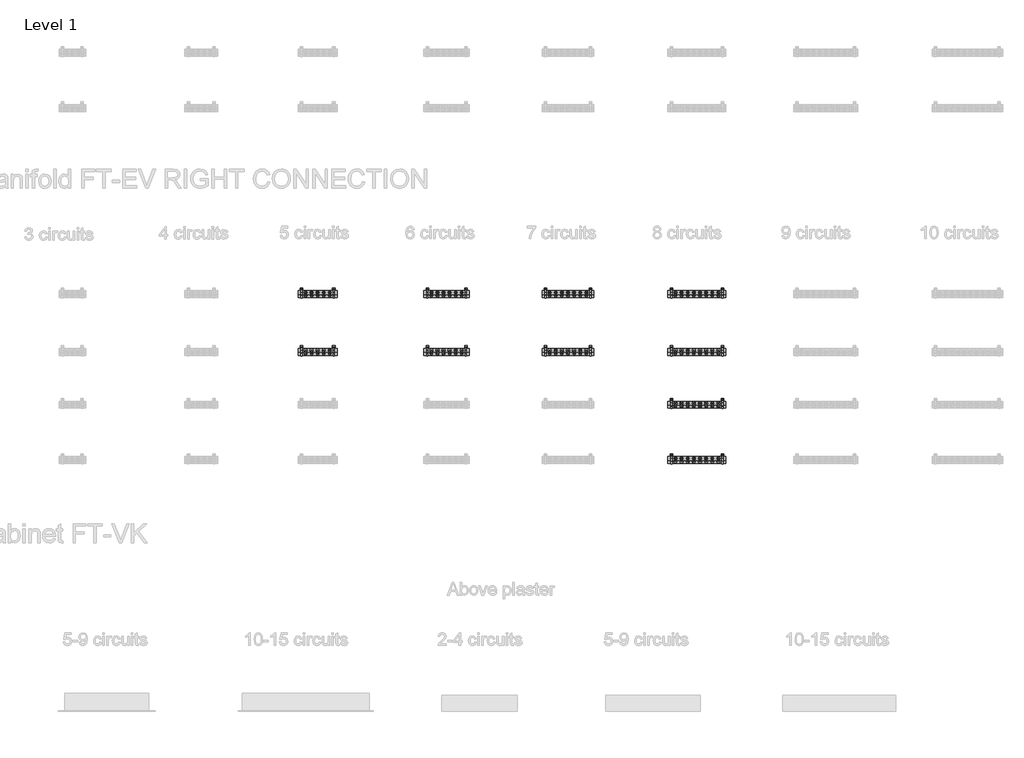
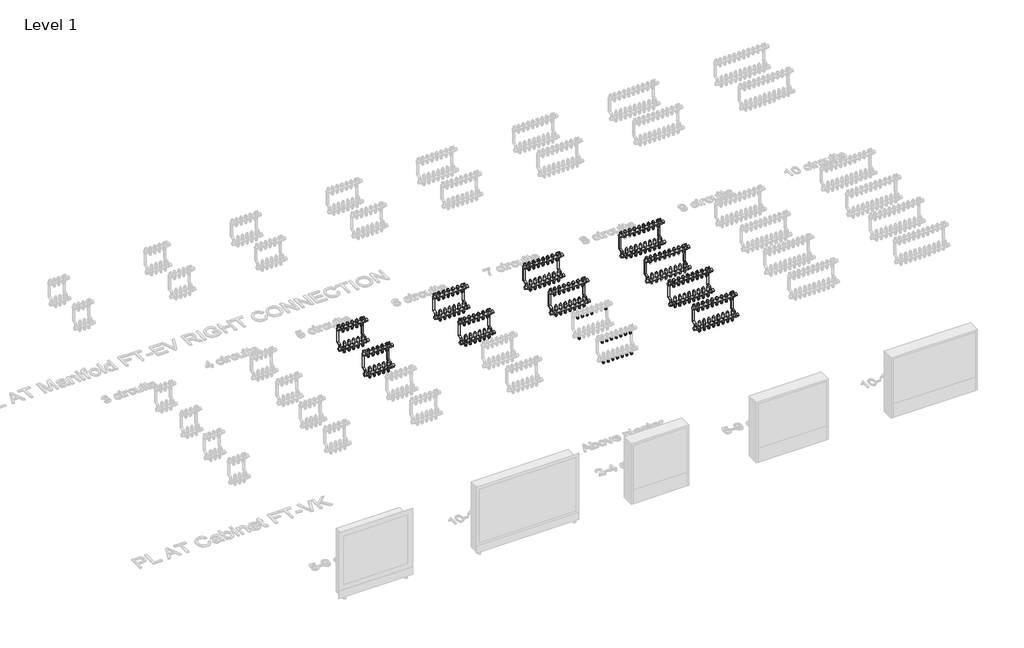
# One storey, part 2 of 23: 136 pipe fittings, 10 valves.
"""IFC4 building model written with IfcOpenShell, lengths in millimetres."""

from ifc_helpers import new_model, si_unit, origin, place, context, project, spatial, transform, mapped, element, save
from components import pipe_fitting_03c6499f, valve_0794a25a, valve_64aa8ca1, valve_0c7f9d95, valve_02e7046f, valve_ee085975, valve_4b47ae93, valve_fde5d0af, valve_4e4a3ad7, valve_daf88f27

model = new_model("IFC4")

# Units and contexts
model_context = context("Model", 3, world=origin())
ifc_project = project(units=[si_unit("LENGTHUNIT", "METRE", prefix="MILLI")], contexts=[model_context])

# Site, building, storey
site = spatial("IfcSite", under=ifc_project)
building = spatial("IfcBuilding", under=site)
storey = spatial("IfcBuildingStorey", under=building, Name="Level 1", Elevation=0.0)

# Pipe fittings
placement = place(None, origin())
pipe_fitting_shape = pipe_fitting_03c6499f(model_context)
element("IfcPipeFitting", 1, ObjectType="Euroconus screwing for multilayer pipes - Manifold FT : Euroconus screwing for multilayer pipes - Manifold FT", at=placement, inside=storey, context=model_context, shape_type="MappedRepresentation", body=[
    mapped(pipe_fitting_shape, transform((4436.9796862, -1164.6959314, 62.88733), x_axis=(0.0, 0.0, -1.0), y_axis=(0.0, 1.0000000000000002, 0.0), z_axis=(1.0000000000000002, 0.0, 0.0))),
])
element("IfcPipeFitting", 2, ObjectType="Euroconus screwing for multilayer pipes - Manifold FT : Euroconus screwing for multilayer pipes - Manifold FT", at=placement, inside=storey, context=model_context, shape_type="MappedRepresentation", body=[
    mapped(pipe_fitting_shape, transform((4388.9796862, -1164.6959314, 62.88733), x_axis=(0.0, 0.0, -1.0), y_axis=(0.0, 1.0000000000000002, 0.0), z_axis=(1.0000000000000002, 0.0, 0.0))),
])
element("IfcPipeFitting", 3, ObjectType="Euroconus screwing for multilayer pipes - Manifold FT : Euroconus screwing for multilayer pipes - Manifold FT", at=placement, inside=storey, context=model_context, shape_type="MappedRepresentation", body=[
    mapped(pipe_fitting_shape, transform((4340.9796862, -1164.6959314, 62.88733), x_axis=(0.0, 0.0, -1.0), y_axis=(0.0, 1.0000000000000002, 0.0), z_axis=(1.0000000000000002, 0.0, 0.0))),
])
element("IfcPipeFitting", 4, ObjectType="Euroconus screwing for multilayer pipes - Manifold FT : Euroconus screwing for multilayer pipes - Manifold FT", at=placement, inside=storey, context=model_context, shape_type="MappedRepresentation", body=[
    mapped(pipe_fitting_shape, transform((4484.9796862, -1164.6959314, 62.88733), x_axis=(0.0, 0.0, -1.0), y_axis=(0.0, 1.0000000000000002, 0.0), z_axis=(1.0000000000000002, 0.0, 0.0))),
])
element("IfcPipeFitting", 5, ObjectType="Euroconus screwing for multilayer pipes - Manifold FT : Euroconus screwing for multilayer pipes - Manifold FT", at=placement, inside=storey, context=model_context, shape_type="MappedRepresentation", body=[
    mapped(pipe_fitting_shape, transform((4436.9796862, -1139.6959314, 272.88733), x_axis=(0.0, 0.0, -1.0), y_axis=(0.0, 1.0000000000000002, 0.0), z_axis=(1.0000000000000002, 0.0, 0.0))),
])
element("IfcPipeFitting", 6, ObjectType="Euroconus screwing for multilayer pipes - Manifold FT : Euroconus screwing for multilayer pipes - Manifold FT", at=placement, inside=storey, context=model_context, shape_type="MappedRepresentation", body=[
    mapped(pipe_fitting_shape, transform((4388.9796862, -1139.6959314, 272.88733), x_axis=(0.0, 0.0, -1.0), y_axis=(0.0, 1.0000000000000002, 0.0), z_axis=(1.0000000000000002, 0.0, 0.0))),
])
element("IfcPipeFitting", 7, ObjectType="Euroconus screwing for multilayer pipes - Manifold FT : Euroconus screwing for multilayer pipes - Manifold FT", at=placement, inside=storey, context=model_context, shape_type="MappedRepresentation", body=[
    mapped(pipe_fitting_shape, transform((4340.9796862, -1139.6959314, 272.88733), x_axis=(0.0, 0.0, -1.0), y_axis=(0.0, 1.0000000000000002, 0.0), z_axis=(1.0000000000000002, 0.0, 0.0))),
])
element("IfcPipeFitting", 8, ObjectType="Euroconus screwing for multilayer pipes - Manifold FT : Euroconus screwing for multilayer pipes - Manifold FT", at=placement, inside=storey, context=model_context, shape_type="MappedRepresentation", body=[
    mapped(pipe_fitting_shape, transform((4484.9796862, -1139.6959314, 272.88733), x_axis=(0.0, 0.0, -1.0), y_axis=(0.0, 1.0000000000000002, 0.0), z_axis=(1.0000000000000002, 0.0, 0.0))),
])
element("IfcPipeFitting", 9, ObjectType="Euroconus screwing for multilayer pipes - Manifold FT : Euroconus screwing for multilayer pipes - Manifold FT", at=placement, inside=storey, context=model_context, shape_type="MappedRepresentation", body=[
    mapped(pipe_fitting_shape, transform((4292.9796862, -1164.6959314, 62.88733), x_axis=(0.0, 0.0, -1.0), y_axis=(0.0, 1.0000000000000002, 0.0), z_axis=(1.0000000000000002, 0.0, 0.0))),
])
element("IfcPipeFitting", 10, ObjectType="Euroconus screwing for multilayer pipes - Manifold FT : Euroconus screwing for multilayer pipes - Manifold FT", at=placement, inside=storey, context=model_context, shape_type="MappedRepresentation", body=[
    mapped(pipe_fitting_shape, transform((4292.9796862, -1139.6959314, 272.88733), x_axis=(0.0, 0.0, -1.0), y_axis=(0.0, 1.0000000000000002, 0.0), z_axis=(1.0000000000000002, 0.0, 0.0))),
])
element("IfcPipeFitting", 11, ObjectType="Euroconus screwing for multilayer pipes - Manifold FT : Euroconus screwing for multilayer pipes - Manifold FT", at=placement, inside=storey, context=model_context, shape_type="MappedRepresentation", body=[
    mapped(pipe_fitting_shape, transform((5486.5796862, -1164.6959314, 62.88733), x_axis=(0.0, 0.0, -1.0), y_axis=(0.0, 1.0000000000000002, 0.0), z_axis=(1.0000000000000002, 0.0, 0.0))),
])
element("IfcPipeFitting", 12, ObjectType="Euroconus screwing for multilayer pipes - Manifold FT : Euroconus screwing for multilayer pipes - Manifold FT", at=placement, inside=storey, context=model_context, shape_type="MappedRepresentation", body=[
    mapped(pipe_fitting_shape, transform((5438.1796862, -1164.6959314, 62.88733), x_axis=(0.0, 0.0, -1.0), y_axis=(0.0, 1.0000000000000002, 0.0), z_axis=(1.0000000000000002, 0.0, 0.0))),
])
element("IfcPipeFitting", 13, ObjectType="Euroconus screwing for multilayer pipes - Manifold FT : Euroconus screwing for multilayer pipes - Manifold FT", at=placement, inside=storey, context=model_context, shape_type="MappedRepresentation", body=[
    mapped(pipe_fitting_shape, transform((5389.7796862, -1164.6959314, 62.88733), x_axis=(0.0, 0.0, -1.0), y_axis=(0.0, 1.0000000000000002, 0.0), z_axis=(1.0000000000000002, 0.0, 0.0))),
])
element("IfcPipeFitting", 14, ObjectType="Euroconus screwing for multilayer pipes - Manifold FT : Euroconus screwing for multilayer pipes - Manifold FT", at=placement, inside=storey, context=model_context, shape_type="MappedRepresentation", body=[
    mapped(pipe_fitting_shape, transform((5341.3796862, -1164.6959314, 62.88733), x_axis=(0.0, 0.0, -1.0), y_axis=(0.0, 1.0000000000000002, 0.0), z_axis=(1.0000000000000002, 0.0, 0.0))),
])
element("IfcPipeFitting", 15, ObjectType="Euroconus screwing for multilayer pipes - Manifold FT : Euroconus screwing for multilayer pipes - Manifold FT", at=placement, inside=storey, context=model_context, shape_type="MappedRepresentation", body=[
    mapped(pipe_fitting_shape, transform((5534.9796862, -1164.6959314, 62.88733), x_axis=(0.0, 0.0, -1.0), y_axis=(0.0, 1.0000000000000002, 0.0), z_axis=(1.0000000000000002, 0.0, 0.0))),
])
element("IfcPipeFitting", 16, ObjectType="Euroconus screwing for multilayer pipes - Manifold FT : Euroconus screwing for multilayer pipes - Manifold FT", at=placement, inside=storey, context=model_context, shape_type="MappedRepresentation", body=[
    mapped(pipe_fitting_shape, transform((5486.5796862, -1139.6959314, 272.88733), x_axis=(0.0, 0.0, -1.0), y_axis=(0.0, 1.0000000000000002, 0.0), z_axis=(1.0000000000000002, 0.0, 0.0))),
])
element("IfcPipeFitting", 17, ObjectType="Euroconus screwing for multilayer pipes - Manifold FT : Euroconus screwing for multilayer pipes - Manifold FT", at=placement, inside=storey, context=model_context, shape_type="MappedRepresentation", body=[
    mapped(pipe_fitting_shape, transform((5438.1796862, -1139.6959314, 272.88733), x_axis=(0.0, 0.0, -1.0), y_axis=(0.0, 1.0000000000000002, 0.0), z_axis=(1.0000000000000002, 0.0, 0.0))),
])
element("IfcPipeFitting", 18, ObjectType="Euroconus screwing for multilayer pipes - Manifold FT : Euroconus screwing for multilayer pipes - Manifold FT", at=placement, inside=storey, context=model_context, shape_type="MappedRepresentation", body=[
    mapped(pipe_fitting_shape, transform((5389.7796862, -1139.6959314, 272.88733), x_axis=(0.0, 0.0, -1.0), y_axis=(0.0, 1.0000000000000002, 0.0), z_axis=(1.0000000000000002, 0.0, 0.0))),
])
element("IfcPipeFitting", 19, ObjectType="Euroconus screwing for multilayer pipes - Manifold FT : Euroconus screwing for multilayer pipes - Manifold FT", at=placement, inside=storey, context=model_context, shape_type="MappedRepresentation", body=[
    mapped(pipe_fitting_shape, transform((5341.3796862, -1139.6959314, 272.88733), x_axis=(0.0, 0.0, -1.0), y_axis=(0.0, 1.0000000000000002, 0.0), z_axis=(1.0000000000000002, 0.0, 0.0))),
])
element("IfcPipeFitting", 20, ObjectType="Euroconus screwing for multilayer pipes - Manifold FT : Euroconus screwing for multilayer pipes - Manifold FT", at=placement, inside=storey, context=model_context, shape_type="MappedRepresentation", body=[
    mapped(pipe_fitting_shape, transform((5534.9796862, -1139.6959314, 272.88733), x_axis=(0.0, 0.0, -1.0), y_axis=(0.0, 1.0000000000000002, 0.0), z_axis=(1.0000000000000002, 0.0, 0.0))),
])
element("IfcPipeFitting", 21, ObjectType="Euroconus screwing for multilayer pipes - Manifold FT : Euroconus screwing for multilayer pipes - Manifold FT", at=placement, inside=storey, context=model_context, shape_type="MappedRepresentation", body=[
    mapped(pipe_fitting_shape, transform((5292.9796862, -1164.6959314, 62.88733), x_axis=(0.0, 0.0, -1.0), y_axis=(0.0, 1.0000000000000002, 0.0), z_axis=(1.0000000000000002, 0.0, 0.0))),
])
element("IfcPipeFitting", 22, ObjectType="Euroconus screwing for multilayer pipes - Manifold FT : Euroconus screwing for multilayer pipes - Manifold FT", at=placement, inside=storey, context=model_context, shape_type="MappedRepresentation", body=[
    mapped(pipe_fitting_shape, transform((5292.9796862, -1139.6959314, 272.88733), x_axis=(0.0, 0.0, -1.0), y_axis=(0.0, 1.0000000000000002, 0.0), z_axis=(1.0000000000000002, 0.0, 0.0))),
])
element("IfcPipeFitting", 23, ObjectType="Euroconus screwing for multilayer pipes - Manifold FT : Euroconus screwing for multilayer pipes - Manifold FT", at=placement, inside=storey, context=model_context, shape_type="MappedRepresentation", body=[
    mapped(pipe_fitting_shape, transform((6476.3130195, -1164.6959314, 62.88733), x_axis=(0.0, 0.0, -1.0), y_axis=(0.0, 1.0000000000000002, 0.0), z_axis=(1.0000000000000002, 0.0, 0.0))),
])
element("IfcPipeFitting", 24, ObjectType="Euroconus screwing for multilayer pipes - Manifold FT : Euroconus screwing for multilayer pipes - Manifold FT", at=placement, inside=storey, context=model_context, shape_type="MappedRepresentation", body=[
    mapped(pipe_fitting_shape, transform((6427.6463528, -1164.6959314, 62.88733), x_axis=(0.0, 0.0, -1.0), y_axis=(0.0, 1.0000000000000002, 0.0), z_axis=(1.0000000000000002, 0.0, 0.0))),
])
element("IfcPipeFitting", 25, ObjectType="Euroconus screwing for multilayer pipes - Manifold FT : Euroconus screwing for multilayer pipes - Manifold FT", at=placement, inside=storey, context=model_context, shape_type="MappedRepresentation", body=[
    mapped(pipe_fitting_shape, transform((6378.9796862, -1164.6959314, 62.88733), x_axis=(0.0, 0.0, -1.0), y_axis=(0.0, 1.0000000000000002, 0.0), z_axis=(1.0000000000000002, 0.0, 0.0))),
])
element("IfcPipeFitting", 26, ObjectType="Euroconus screwing for multilayer pipes - Manifold FT : Euroconus screwing for multilayer pipes - Manifold FT", at=placement, inside=storey, context=model_context, shape_type="MappedRepresentation", body=[
    mapped(pipe_fitting_shape, transform((6330.3130195, -1164.6959314, 62.88733), x_axis=(0.0, 0.0, -1.0), y_axis=(0.0, 1.0000000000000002, 0.0), z_axis=(1.0000000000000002, 0.0, 0.0))),
])
element("IfcPipeFitting", 27, ObjectType="Euroconus screwing for multilayer pipes - Manifold FT : Euroconus screwing for multilayer pipes - Manifold FT", at=placement, inside=storey, context=model_context, shape_type="MappedRepresentation", body=[
    mapped(pipe_fitting_shape, transform((6281.6463528, -1164.6959314, 62.88733), x_axis=(0.0, 0.0, -1.0), y_axis=(0.0, 1.0000000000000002, 0.0), z_axis=(1.0000000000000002, 0.0, 0.0))),
])
element("IfcPipeFitting", 28, ObjectType="Euroconus screwing for multilayer pipes - Manifold FT : Euroconus screwing for multilayer pipes - Manifold FT", at=placement, inside=storey, context=model_context, shape_type="MappedRepresentation", body=[
    mapped(pipe_fitting_shape, transform((6524.9796862, -1164.6959314, 62.88733), x_axis=(0.0, 0.0, -1.0), y_axis=(0.0, 1.0000000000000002, 0.0), z_axis=(1.0000000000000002, 0.0, 0.0))),
])
element("IfcPipeFitting", 29, ObjectType="Euroconus screwing for multilayer pipes - Manifold FT : Euroconus screwing for multilayer pipes - Manifold FT", at=placement, inside=storey, context=model_context, shape_type="MappedRepresentation", body=[
    mapped(pipe_fitting_shape, transform((6476.3130195, -1139.6959314, 272.88733), x_axis=(0.0, 0.0, -1.0), y_axis=(0.0, 1.0000000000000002, 0.0), z_axis=(1.0000000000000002, 0.0, 0.0))),
])
element("IfcPipeFitting", 30, ObjectType="Euroconus screwing for multilayer pipes - Manifold FT : Euroconus screwing for multilayer pipes - Manifold FT", at=placement, inside=storey, context=model_context, shape_type="MappedRepresentation", body=[
    mapped(pipe_fitting_shape, transform((6427.6463528, -1139.6959314, 272.88733), x_axis=(0.0, 0.0, -1.0), y_axis=(0.0, 1.0000000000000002, 0.0), z_axis=(1.0000000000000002, 0.0, 0.0))),
])
element("IfcPipeFitting", 31, ObjectType="Euroconus screwing for multilayer pipes - Manifold FT : Euroconus screwing for multilayer pipes - Manifold FT", at=placement, inside=storey, context=model_context, shape_type="MappedRepresentation", body=[
    mapped(pipe_fitting_shape, transform((6378.9796862, -1139.6959314, 272.88733), x_axis=(0.0, 0.0, -1.0), y_axis=(0.0, 1.0000000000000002, 0.0), z_axis=(1.0000000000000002, 0.0, 0.0))),
])
element("IfcPipeFitting", 32, ObjectType="Euroconus screwing for multilayer pipes - Manifold FT : Euroconus screwing for multilayer pipes - Manifold FT", at=placement, inside=storey, context=model_context, shape_type="MappedRepresentation", body=[
    mapped(pipe_fitting_shape, transform((6330.3130195, -1139.6959314, 272.88733), x_axis=(0.0, 0.0, -1.0), y_axis=(0.0, 1.0000000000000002, 0.0), z_axis=(1.0000000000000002, 0.0, 0.0))),
])
element("IfcPipeFitting", 33, ObjectType="Euroconus screwing for multilayer pipes - Manifold FT : Euroconus screwing for multilayer pipes - Manifold FT", at=placement, inside=storey, context=model_context, shape_type="MappedRepresentation", body=[
    mapped(pipe_fitting_shape, transform((6281.6463528, -1139.6959314, 272.88733), x_axis=(0.0, 0.0, -1.0), y_axis=(0.0, 1.0000000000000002, 0.0), z_axis=(1.0000000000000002, 0.0, 0.0))),
])
element("IfcPipeFitting", 34, ObjectType="Euroconus screwing for multilayer pipes - Manifold FT : Euroconus screwing for multilayer pipes - Manifold FT", at=placement, inside=storey, context=model_context, shape_type="MappedRepresentation", body=[
    mapped(pipe_fitting_shape, transform((6524.9796862, -1139.6959314, 272.88733), x_axis=(0.0, 0.0, -1.0), y_axis=(0.0, 1.0000000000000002, 0.0), z_axis=(1.0000000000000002, 0.0, 0.0))),
])
element("IfcPipeFitting", 35, ObjectType="Euroconus screwing for multilayer pipes - Manifold FT : Euroconus screwing for multilayer pipes - Manifold FT", at=placement, inside=storey, context=model_context, shape_type="MappedRepresentation", body=[
    mapped(pipe_fitting_shape, transform((6232.9796862, -1164.6959314, 62.88733), x_axis=(0.0, 0.0, -1.0), y_axis=(0.0, 1.0000000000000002, 0.0), z_axis=(1.0000000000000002, 0.0, 0.0))),
])
element("IfcPipeFitting", 36, ObjectType="Euroconus screwing for multilayer pipes - Manifold FT : Euroconus screwing for multilayer pipes - Manifold FT", at=placement, inside=storey, context=model_context, shape_type="MappedRepresentation", body=[
    mapped(pipe_fitting_shape, transform((6232.9796862, -1139.6959314, 272.88733), x_axis=(0.0, 0.0, -1.0), y_axis=(0.0, 1.0000000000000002, 0.0), z_axis=(1.0000000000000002, 0.0, 0.0))),
])
element("IfcPipeFitting", 37, ObjectType="Euroconus screwing for multilayer pipes - Manifold FT : Euroconus screwing for multilayer pipes - Manifold FT", at=placement, inside=storey, context=model_context, shape_type="MappedRepresentation", body=[
    mapped(pipe_fitting_shape, transform((7526.1225433, -1164.6959314, 62.88733), x_axis=(0.0, 0.0, -1.0), y_axis=(0.0, 1.0000000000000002, 0.0), z_axis=(1.0000000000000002, 0.0, 0.0))),
])
element("IfcPipeFitting", 38, ObjectType="Euroconus screwing for multilayer pipes - Manifold FT : Euroconus screwing for multilayer pipes - Manifold FT", at=placement, inside=storey, context=model_context, shape_type="MappedRepresentation", body=[
    mapped(pipe_fitting_shape, transform((7477.2654004, -1164.6959314, 62.88733), x_axis=(0.0, 0.0, -1.0), y_axis=(0.0, 1.0000000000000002, 0.0), z_axis=(1.0000000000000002, 0.0, 0.0))),
])
element("IfcPipeFitting", 39, ObjectType="Euroconus screwing for multilayer pipes - Manifold FT : Euroconus screwing for multilayer pipes - Manifold FT", at=placement, inside=storey, context=model_context, shape_type="MappedRepresentation", body=[
    mapped(pipe_fitting_shape, transform((7428.4082576, -1164.6959314, 62.88733), x_axis=(0.0, 0.0, -1.0), y_axis=(0.0, 1.0000000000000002, 0.0), z_axis=(1.0000000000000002, 0.0, 0.0))),
])
element("IfcPipeFitting", 40, ObjectType="Euroconus screwing for multilayer pipes - Manifold FT : Euroconus screwing for multilayer pipes - Manifold FT", at=placement, inside=storey, context=model_context, shape_type="MappedRepresentation", body=[
    mapped(pipe_fitting_shape, transform((7379.5511147, -1164.6959314, 62.88733), x_axis=(0.0, 0.0, -1.0), y_axis=(0.0, 1.0000000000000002, 0.0), z_axis=(1.0000000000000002, 0.0, 0.0))),
])
element("IfcPipeFitting", 41, ObjectType="Euroconus screwing for multilayer pipes - Manifold FT : Euroconus screwing for multilayer pipes - Manifold FT", at=placement, inside=storey, context=model_context, shape_type="MappedRepresentation", body=[
    mapped(pipe_fitting_shape, transform((7330.6939719, -1164.6959314, 62.88733), x_axis=(0.0, 0.0, -1.0), y_axis=(0.0, 1.0000000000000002, 0.0), z_axis=(1.0000000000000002, 0.0, 0.0))),
])
element("IfcPipeFitting", 42, ObjectType="Euroconus screwing for multilayer pipes - Manifold FT : Euroconus screwing for multilayer pipes - Manifold FT", at=placement, inside=storey, context=model_context, shape_type="MappedRepresentation", body=[
    mapped(pipe_fitting_shape, transform((7281.836829, -1164.6959314, 62.88733), x_axis=(0.0, 0.0, -1.0), y_axis=(0.0, 1.0000000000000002, 0.0), z_axis=(1.0000000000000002, 0.0, 0.0))),
])
element("IfcPipeFitting", 43, ObjectType="Euroconus screwing for multilayer pipes - Manifold FT : Euroconus screwing for multilayer pipes - Manifold FT", at=placement, inside=storey, context=model_context, shape_type="MappedRepresentation", body=[
    mapped(pipe_fitting_shape, transform((7574.9796862, -1164.6959314, 62.88733), x_axis=(0.0, 0.0, -1.0), y_axis=(0.0, 1.0000000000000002, 0.0), z_axis=(1.0000000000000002, 0.0, 0.0))),
])
element("IfcPipeFitting", 44, ObjectType="Euroconus screwing for multilayer pipes - Manifold FT : Euroconus screwing for multilayer pipes - Manifold FT", at=placement, inside=storey, context=model_context, shape_type="MappedRepresentation", body=[
    mapped(pipe_fitting_shape, transform((7526.1225433, -1139.6959314, 272.88733), x_axis=(0.0, 0.0, -1.0), y_axis=(0.0, 1.0000000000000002, 0.0), z_axis=(1.0000000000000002, 0.0, 0.0))),
])
element("IfcPipeFitting", 45, ObjectType="Euroconus screwing for multilayer pipes - Manifold FT : Euroconus screwing for multilayer pipes - Manifold FT", at=placement, inside=storey, context=model_context, shape_type="MappedRepresentation", body=[
    mapped(pipe_fitting_shape, transform((7477.2654004, -1139.6959314, 272.88733), x_axis=(0.0, 0.0, -1.0), y_axis=(0.0, 1.0000000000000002, 0.0), z_axis=(1.0000000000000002, 0.0, 0.0))),
])
element("IfcPipeFitting", 46, ObjectType="Euroconus screwing for multilayer pipes - Manifold FT : Euroconus screwing for multilayer pipes - Manifold FT", at=placement, inside=storey, context=model_context, shape_type="MappedRepresentation", body=[
    mapped(pipe_fitting_shape, transform((7428.4082576, -1139.6959314, 272.88733), x_axis=(0.0, 0.0, -1.0), y_axis=(0.0, 1.0000000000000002, 0.0), z_axis=(1.0000000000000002, 0.0, 0.0))),
])
element("IfcPipeFitting", 47, ObjectType="Euroconus screwing for multilayer pipes - Manifold FT : Euroconus screwing for multilayer pipes - Manifold FT", at=placement, inside=storey, context=model_context, shape_type="MappedRepresentation", body=[
    mapped(pipe_fitting_shape, transform((7379.5511147, -1139.6959314, 272.88733), x_axis=(0.0, 0.0, -1.0), y_axis=(0.0, 1.0000000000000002, 0.0), z_axis=(1.0000000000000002, 0.0, 0.0))),
])
element("IfcPipeFitting", 48, ObjectType="Euroconus screwing for multilayer pipes - Manifold FT : Euroconus screwing for multilayer pipes - Manifold FT", at=placement, inside=storey, context=model_context, shape_type="MappedRepresentation", body=[
    mapped(pipe_fitting_shape, transform((7330.6939719, -1139.6959314, 272.88733), x_axis=(0.0, 0.0, -1.0), y_axis=(0.0, 1.0000000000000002, 0.0), z_axis=(1.0000000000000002, 0.0, 0.0))),
])
element("IfcPipeFitting", 49, ObjectType="Euroconus screwing for multilayer pipes - Manifold FT : Euroconus screwing for multilayer pipes - Manifold FT", at=placement, inside=storey, context=model_context, shape_type="MappedRepresentation", body=[
    mapped(pipe_fitting_shape, transform((4436.9796862, -1624.6959314, 62.88733), x_axis=(0.0, 0.0, -1.0), y_axis=(0.0, 1.0000000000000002, 0.0), z_axis=(1.0000000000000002, 0.0, 0.0))),
])
element("IfcPipeFitting", 50, ObjectType="Euroconus screwing for multilayer pipes - Manifold FT : Euroconus screwing for multilayer pipes - Manifold FT", at=placement, inside=storey, context=model_context, shape_type="MappedRepresentation", body=[
    mapped(pipe_fitting_shape, transform((4388.9796862, -1624.6959314, 62.88733), x_axis=(0.0, 0.0, -1.0), y_axis=(0.0, 1.0000000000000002, 0.0), z_axis=(1.0000000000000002, 0.0, 0.0))),
])
element("IfcPipeFitting", 51, ObjectType="Euroconus screwing for multilayer pipes - Manifold FT : Euroconus screwing for multilayer pipes - Manifold FT", at=placement, inside=storey, context=model_context, shape_type="MappedRepresentation", body=[
    mapped(pipe_fitting_shape, transform((4340.9796862, -1624.6959314, 62.88733), x_axis=(0.0, 0.0, -1.0), y_axis=(0.0, 1.0000000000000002, 0.0), z_axis=(1.0000000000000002, 0.0, 0.0))),
])
element("IfcPipeFitting", 52, ObjectType="Euroconus screwing for multilayer pipes - Manifold FT : Euroconus screwing for multilayer pipes - Manifold FT", at=placement, inside=storey, context=model_context, shape_type="MappedRepresentation", body=[
    mapped(pipe_fitting_shape, transform((4484.9796862, -1624.6959314, 62.88733), x_axis=(0.0, 0.0, -1.0), y_axis=(0.0, 1.0000000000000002, 0.0), z_axis=(1.0000000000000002, 0.0, 0.0))),
])
element("IfcPipeFitting", 53, ObjectType="Euroconus screwing for multilayer pipes - Manifold FT : Euroconus screwing for multilayer pipes - Manifold FT", at=placement, inside=storey, context=model_context, shape_type="MappedRepresentation", body=[
    mapped(pipe_fitting_shape, transform((4436.9796862, -1599.6959314, 272.88733), x_axis=(0.0, 0.0, -1.0), y_axis=(0.0, 1.0000000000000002, 0.0), z_axis=(1.0000000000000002, 0.0, 0.0))),
])
element("IfcPipeFitting", 54, ObjectType="Euroconus screwing for multilayer pipes - Manifold FT : Euroconus screwing for multilayer pipes - Manifold FT", at=placement, inside=storey, context=model_context, shape_type="MappedRepresentation", body=[
    mapped(pipe_fitting_shape, transform((4388.9796862, -1599.6959314, 272.88733), x_axis=(0.0, 0.0, -1.0), y_axis=(0.0, 1.0000000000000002, 0.0), z_axis=(1.0000000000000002, 0.0, 0.0))),
])
element("IfcPipeFitting", 55, ObjectType="Euroconus screwing for multilayer pipes - Manifold FT : Euroconus screwing for multilayer pipes - Manifold FT", at=placement, inside=storey, context=model_context, shape_type="MappedRepresentation", body=[
    mapped(pipe_fitting_shape, transform((4340.9796862, -1599.6959314, 272.88733), x_axis=(0.0, 0.0, -1.0), y_axis=(0.0, 1.0000000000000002, 0.0), z_axis=(1.0000000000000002, 0.0, 0.0))),
])
element("IfcPipeFitting", 56, ObjectType="Euroconus screwing for multilayer pipes - Manifold FT : Euroconus screwing for multilayer pipes - Manifold FT", at=placement, inside=storey, context=model_context, shape_type="MappedRepresentation", body=[
    mapped(pipe_fitting_shape, transform((4484.9796862, -1599.6959314, 272.88733), x_axis=(0.0, 0.0, -1.0), y_axis=(0.0, 1.0000000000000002, 0.0), z_axis=(1.0000000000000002, 0.0, 0.0))),
])
element("IfcPipeFitting", 57, ObjectType="Euroconus screwing for multilayer pipes - Manifold FT : Euroconus screwing for multilayer pipes - Manifold FT", at=placement, inside=storey, context=model_context, shape_type="MappedRepresentation", body=[
    mapped(pipe_fitting_shape, transform((4292.9796862, -1624.6959314, 62.88733), x_axis=(0.0, 0.0, -1.0), y_axis=(0.0, 1.0000000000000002, 0.0), z_axis=(1.0000000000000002, 0.0, 0.0))),
])
element("IfcPipeFitting", 58, ObjectType="Euroconus screwing for multilayer pipes - Manifold FT : Euroconus screwing for multilayer pipes - Manifold FT", at=placement, inside=storey, context=model_context, shape_type="MappedRepresentation", body=[
    mapped(pipe_fitting_shape, transform((4292.9796862, -1599.6959314, 272.88733), x_axis=(0.0, 0.0, -1.0), y_axis=(0.0, 1.0000000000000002, 0.0), z_axis=(1.0000000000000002, 0.0, 0.0))),
])
element("IfcPipeFitting", 59, ObjectType="Euroconus screwing for multilayer pipes - Manifold FT : Euroconus screwing for multilayer pipes - Manifold FT", at=placement, inside=storey, context=model_context, shape_type="MappedRepresentation", body=[
    mapped(pipe_fitting_shape, transform((5486.5796862, -1624.6959314, 62.88733), x_axis=(0.0, 0.0, -1.0), y_axis=(0.0, 1.0000000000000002, 0.0), z_axis=(1.0000000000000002, 0.0, 0.0))),
])
element("IfcPipeFitting", 60, ObjectType="Euroconus screwing for multilayer pipes - Manifold FT : Euroconus screwing for multilayer pipes - Manifold FT", at=placement, inside=storey, context=model_context, shape_type="MappedRepresentation", body=[
    mapped(pipe_fitting_shape, transform((5438.1796862, -1624.6959314, 62.88733), x_axis=(0.0, 0.0, -1.0), y_axis=(0.0, 1.0000000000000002, 0.0), z_axis=(1.0000000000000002, 0.0, 0.0))),
])
element("IfcPipeFitting", 61, ObjectType="Euroconus screwing for multilayer pipes - Manifold FT : Euroconus screwing for multilayer pipes - Manifold FT", at=placement, inside=storey, context=model_context, shape_type="MappedRepresentation", body=[
    mapped(pipe_fitting_shape, transform((5389.7796862, -1624.6959314, 62.88733), x_axis=(0.0, 0.0, -1.0), y_axis=(0.0, 1.0000000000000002, 0.0), z_axis=(1.0000000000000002, 0.0, 0.0))),
])
element("IfcPipeFitting", 62, ObjectType="Euroconus screwing for multilayer pipes - Manifold FT : Euroconus screwing for multilayer pipes - Manifold FT", at=placement, inside=storey, context=model_context, shape_type="MappedRepresentation", body=[
    mapped(pipe_fitting_shape, transform((5341.3796862, -1624.6959314, 62.88733), x_axis=(0.0, 0.0, -1.0), y_axis=(0.0, 1.0000000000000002, 0.0), z_axis=(1.0000000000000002, 0.0, 0.0))),
])
element("IfcPipeFitting", 63, ObjectType="Euroconus screwing for multilayer pipes - Manifold FT : Euroconus screwing for multilayer pipes - Manifold FT", at=placement, inside=storey, context=model_context, shape_type="MappedRepresentation", body=[
    mapped(pipe_fitting_shape, transform((5534.9796862, -1624.6959314, 62.88733), x_axis=(0.0, 0.0, -1.0), y_axis=(0.0, 1.0000000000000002, 0.0), z_axis=(1.0000000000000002, 0.0, 0.0))),
])
element("IfcPipeFitting", 64, ObjectType="Euroconus screwing for multilayer pipes - Manifold FT : Euroconus screwing for multilayer pipes - Manifold FT", at=placement, inside=storey, context=model_context, shape_type="MappedRepresentation", body=[
    mapped(pipe_fitting_shape, transform((5486.5796862, -1599.6959314, 272.88733), x_axis=(0.0, 0.0, -1.0), y_axis=(0.0, 1.0000000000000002, 0.0), z_axis=(1.0000000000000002, 0.0, 0.0))),
])
element("IfcPipeFitting", 65, ObjectType="Euroconus screwing for multilayer pipes - Manifold FT : Euroconus screwing for multilayer pipes - Manifold FT", at=placement, inside=storey, context=model_context, shape_type="MappedRepresentation", body=[
    mapped(pipe_fitting_shape, transform((5438.1796862, -1599.6959314, 272.88733), x_axis=(0.0, 0.0, -1.0), y_axis=(0.0, 1.0000000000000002, 0.0), z_axis=(1.0000000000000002, 0.0, 0.0))),
])
element("IfcPipeFitting", 66, ObjectType="Euroconus screwing for multilayer pipes - Manifold FT : Euroconus screwing for multilayer pipes - Manifold FT", at=placement, inside=storey, context=model_context, shape_type="MappedRepresentation", body=[
    mapped(pipe_fitting_shape, transform((5389.7796862, -1599.6959314, 272.88733), x_axis=(0.0, 0.0, -1.0), y_axis=(0.0, 1.0000000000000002, 0.0), z_axis=(1.0000000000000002, 0.0, 0.0))),
])
element("IfcPipeFitting", 67, ObjectType="Euroconus screwing for multilayer pipes - Manifold FT : Euroconus screwing for multilayer pipes - Manifold FT", at=placement, inside=storey, context=model_context, shape_type="MappedRepresentation", body=[
    mapped(pipe_fitting_shape, transform((5341.3796862, -1599.6959314, 272.88733), x_axis=(0.0, 0.0, -1.0), y_axis=(0.0, 1.0000000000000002, 0.0), z_axis=(1.0000000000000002, 0.0, 0.0))),
])
element("IfcPipeFitting", 68, ObjectType="Euroconus screwing for multilayer pipes - Manifold FT : Euroconus screwing for multilayer pipes - Manifold FT", at=placement, inside=storey, context=model_context, shape_type="MappedRepresentation", body=[
    mapped(pipe_fitting_shape, transform((5534.9796862, -1599.6959314, 272.88733), x_axis=(0.0, 0.0, -1.0), y_axis=(0.0, 1.0000000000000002, 0.0), z_axis=(1.0000000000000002, 0.0, 0.0))),
])
element("IfcPipeFitting", 69, ObjectType="Euroconus screwing for multilayer pipes - Manifold FT : Euroconus screwing for multilayer pipes - Manifold FT", at=placement, inside=storey, context=model_context, shape_type="MappedRepresentation", body=[
    mapped(pipe_fitting_shape, transform((5292.9796862, -1624.6959314, 62.88733), x_axis=(0.0, 0.0, -1.0), y_axis=(0.0, 1.0000000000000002, 0.0), z_axis=(1.0000000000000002, 0.0, 0.0))),
])
element("IfcPipeFitting", 70, ObjectType="Euroconus screwing for multilayer pipes - Manifold FT : Euroconus screwing for multilayer pipes - Manifold FT", at=placement, inside=storey, context=model_context, shape_type="MappedRepresentation", body=[
    mapped(pipe_fitting_shape, transform((5292.9796862, -1599.6959314, 272.88733), x_axis=(0.0, 0.0, -1.0), y_axis=(0.0, 1.0000000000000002, 0.0), z_axis=(1.0000000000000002, 0.0, 0.0))),
])
element("IfcPipeFitting", 71, ObjectType="Euroconus screwing for multilayer pipes - Manifold FT : Euroconus screwing for multilayer pipes - Manifold FT", at=placement, inside=storey, context=model_context, shape_type="MappedRepresentation", body=[
    mapped(pipe_fitting_shape, transform((6476.3130195, -1624.6959314, 62.88733), x_axis=(0.0, 0.0, -1.0), y_axis=(0.0, 1.0000000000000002, 0.0), z_axis=(1.0000000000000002, 0.0, 0.0))),
])
element("IfcPipeFitting", 72, ObjectType="Euroconus screwing for multilayer pipes - Manifold FT : Euroconus screwing for multilayer pipes - Manifold FT", at=placement, inside=storey, context=model_context, shape_type="MappedRepresentation", body=[
    mapped(pipe_fitting_shape, transform((6427.6463528, -1624.6959314, 62.88733), x_axis=(0.0, 0.0, -1.0), y_axis=(0.0, 1.0000000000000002, 0.0), z_axis=(1.0000000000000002, 0.0, 0.0))),
])
element("IfcPipeFitting", 73, ObjectType="Euroconus screwing for multilayer pipes - Manifold FT : Euroconus screwing for multilayer pipes - Manifold FT", at=placement, inside=storey, context=model_context, shape_type="MappedRepresentation", body=[
    mapped(pipe_fitting_shape, transform((6378.9796862, -1624.6959314, 62.88733), x_axis=(0.0, 0.0, -1.0), y_axis=(0.0, 1.0000000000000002, 0.0), z_axis=(1.0000000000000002, 0.0, 0.0))),
])
element("IfcPipeFitting", 74, ObjectType="Euroconus screwing for multilayer pipes - Manifold FT : Euroconus screwing for multilayer pipes - Manifold FT", at=placement, inside=storey, context=model_context, shape_type="MappedRepresentation", body=[
    mapped(pipe_fitting_shape, transform((6330.3130195, -1624.6959314, 62.88733), x_axis=(0.0, 0.0, -1.0), y_axis=(0.0, 1.0000000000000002, 0.0), z_axis=(1.0000000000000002, 0.0, 0.0))),
])
element("IfcPipeFitting", 75, ObjectType="Euroconus screwing for multilayer pipes - Manifold FT : Euroconus screwing for multilayer pipes - Manifold FT", at=placement, inside=storey, context=model_context, shape_type="MappedRepresentation", body=[
    mapped(pipe_fitting_shape, transform((6281.6463528, -1624.6959314, 62.88733), x_axis=(0.0, 0.0, -1.0), y_axis=(0.0, 1.0000000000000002, 0.0), z_axis=(1.0000000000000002, 0.0, 0.0))),
])
element("IfcPipeFitting", 76, ObjectType="Euroconus screwing for multilayer pipes - Manifold FT : Euroconus screwing for multilayer pipes - Manifold FT", at=placement, inside=storey, context=model_context, shape_type="MappedRepresentation", body=[
    mapped(pipe_fitting_shape, transform((6524.9796862, -1624.6959314, 62.88733), x_axis=(0.0, 0.0, -1.0), y_axis=(0.0, 1.0000000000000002, 0.0), z_axis=(1.0000000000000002, 0.0, 0.0))),
])
element("IfcPipeFitting", 77, ObjectType="Euroconus screwing for multilayer pipes - Manifold FT : Euroconus screwing for multilayer pipes - Manifold FT", at=placement, inside=storey, context=model_context, shape_type="MappedRepresentation", body=[
    mapped(pipe_fitting_shape, transform((6476.3130195, -1599.6959314, 272.88733), x_axis=(0.0, 0.0, -1.0), y_axis=(0.0, 1.0000000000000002, 0.0), z_axis=(1.0000000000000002, 0.0, 0.0))),
])
element("IfcPipeFitting", 78, ObjectType="Euroconus screwing for multilayer pipes - Manifold FT : Euroconus screwing for multilayer pipes - Manifold FT", at=placement, inside=storey, context=model_context, shape_type="MappedRepresentation", body=[
    mapped(pipe_fitting_shape, transform((6427.6463528, -1599.6959314, 272.88733), x_axis=(0.0, 0.0, -1.0), y_axis=(0.0, 1.0000000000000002, 0.0), z_axis=(1.0000000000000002, 0.0, 0.0))),
])
element("IfcPipeFitting", 79, ObjectType="Euroconus screwing for multilayer pipes - Manifold FT : Euroconus screwing for multilayer pipes - Manifold FT", at=placement, inside=storey, context=model_context, shape_type="MappedRepresentation", body=[
    mapped(pipe_fitting_shape, transform((6378.9796862, -1599.6959314, 272.88733), x_axis=(0.0, 0.0, -1.0), y_axis=(0.0, 1.0000000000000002, 0.0), z_axis=(1.0000000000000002, 0.0, 0.0))),
])
element("IfcPipeFitting", 80, ObjectType="Euroconus screwing for multilayer pipes - Manifold FT : Euroconus screwing for multilayer pipes - Manifold FT", at=placement, inside=storey, context=model_context, shape_type="MappedRepresentation", body=[
    mapped(pipe_fitting_shape, transform((6330.3130195, -1599.6959314, 272.88733), x_axis=(0.0, 0.0, -1.0), y_axis=(0.0, 1.0000000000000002, 0.0), z_axis=(1.0000000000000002, 0.0, 0.0))),
])
element("IfcPipeFitting", 81, ObjectType="Euroconus screwing for multilayer pipes - Manifold FT : Euroconus screwing for multilayer pipes - Manifold FT", at=placement, inside=storey, context=model_context, shape_type="MappedRepresentation", body=[
    mapped(pipe_fitting_shape, transform((6281.6463528, -1599.6959314, 272.88733), x_axis=(0.0, 0.0, -1.0), y_axis=(0.0, 1.0000000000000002, 0.0), z_axis=(1.0000000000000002, 0.0, 0.0))),
])
element("IfcPipeFitting", 82, ObjectType="Euroconus screwing for multilayer pipes - Manifold FT : Euroconus screwing for multilayer pipes - Manifold FT", at=placement, inside=storey, context=model_context, shape_type="MappedRepresentation", body=[
    mapped(pipe_fitting_shape, transform((6524.9796862, -1599.6959314, 272.88733), x_axis=(0.0, 0.0, -1.0), y_axis=(0.0, 1.0000000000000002, 0.0), z_axis=(1.0000000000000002, 0.0, 0.0))),
])
element("IfcPipeFitting", 83, ObjectType="Euroconus screwing for multilayer pipes - Manifold FT : Euroconus screwing for multilayer pipes - Manifold FT", at=placement, inside=storey, context=model_context, shape_type="MappedRepresentation", body=[
    mapped(pipe_fitting_shape, transform((6232.9796862, -1624.6959314, 62.88733), x_axis=(0.0, 0.0, -1.0), y_axis=(0.0, 1.0000000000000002, 0.0), z_axis=(1.0000000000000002, 0.0, 0.0))),
])
element("IfcPipeFitting", 84, ObjectType="Euroconus screwing for multilayer pipes - Manifold FT : Euroconus screwing for multilayer pipes - Manifold FT", at=placement, inside=storey, context=model_context, shape_type="MappedRepresentation", body=[
    mapped(pipe_fitting_shape, transform((6232.9796862, -1599.6959314, 272.88733), x_axis=(0.0, 0.0, -1.0), y_axis=(0.0, 1.0000000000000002, 0.0), z_axis=(1.0000000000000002, 0.0, 0.0))),
])
element("IfcPipeFitting", 85, ObjectType="Euroconus screwing for multilayer pipes - Manifold FT : Euroconus screwing for multilayer pipes - Manifold FT", at=placement, inside=storey, context=model_context, shape_type="MappedRepresentation", body=[
    mapped(pipe_fitting_shape, transform((6378.9796862, -2019.6959314, 272.88733), x_axis=(0.0, 0.0, -1.0), y_axis=(0.0, 1.0000000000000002, 0.0), z_axis=(1.0000000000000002, 0.0, 0.0))),
])
element("IfcPipeFitting", 86, ObjectType="Euroconus screwing for multilayer pipes - Manifold FT : Euroconus screwing for multilayer pipes - Manifold FT", at=placement, inside=storey, context=model_context, shape_type="MappedRepresentation", body=[
    mapped(pipe_fitting_shape, transform((6330.3130195, -2019.6959314, 272.88733), x_axis=(0.0, 0.0, -1.0), y_axis=(0.0, 1.0000000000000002, 0.0), z_axis=(1.0000000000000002, 0.0, 0.0))),
])
element("IfcPipeFitting", 87, ObjectType="Euroconus screwing for multilayer pipes - Manifold FT : Euroconus screwing for multilayer pipes - Manifold FT", at=placement, inside=storey, context=model_context, shape_type="MappedRepresentation", body=[
    mapped(pipe_fitting_shape, transform((6281.6463528, -2019.6959314, 272.88733), x_axis=(0.0, 0.0, -1.0), y_axis=(0.0, 1.0000000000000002, 0.0), z_axis=(1.0000000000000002, 0.0, 0.0))),
])
element("IfcPipeFitting", 88, ObjectType="Euroconus screwing for multilayer pipes - Manifold FT : Euroconus screwing for multilayer pipes - Manifold FT", at=placement, inside=storey, context=model_context, shape_type="MappedRepresentation", body=[
    mapped(pipe_fitting_shape, transform((6524.9796862, -2019.6959314, 272.88733), x_axis=(0.0, 0.0, -1.0), y_axis=(0.0, 1.0000000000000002, 0.0), z_axis=(1.0000000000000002, 0.0, 0.0))),
])
element("IfcPipeFitting", 89, ObjectType="Euroconus screwing for multilayer pipes - Manifold FT : Euroconus screwing for multilayer pipes - Manifold FT", at=placement, inside=storey, context=model_context, shape_type="MappedRepresentation", body=[
    mapped(pipe_fitting_shape, transform((6232.9796862, -2044.6959314, 62.88733), x_axis=(0.0, 0.0, -1.0), y_axis=(0.0, 1.0000000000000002, 0.0), z_axis=(1.0000000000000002, 0.0, 0.0))),
])
element("IfcPipeFitting", 90, ObjectType="Euroconus screwing for multilayer pipes - Manifold FT : Euroconus screwing for multilayer pipes - Manifold FT", at=placement, inside=storey, context=model_context, shape_type="MappedRepresentation", body=[
    mapped(pipe_fitting_shape, transform((6232.9796862, -2019.6959314, 272.88733), x_axis=(0.0, 0.0, -1.0), y_axis=(0.0, 1.0000000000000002, 0.0), z_axis=(1.0000000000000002, 0.0, 0.0))),
])
element("IfcPipeFitting", 91, ObjectType="Euroconus screwing for multilayer pipes - Manifold FT : Euroconus screwing for multilayer pipes - Manifold FT", at=placement, inside=storey, context=model_context, shape_type="MappedRepresentation", body=[
    mapped(pipe_fitting_shape, transform((7526.1225433, -2044.6959314, 62.88733), x_axis=(0.0, 0.0, -1.0), y_axis=(0.0, 1.0000000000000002, 0.0), z_axis=(1.0000000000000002, 0.0, 0.0))),
])
element("IfcPipeFitting", 92, ObjectType="Euroconus screwing for multilayer pipes - Manifold FT : Euroconus screwing for multilayer pipes - Manifold FT", at=placement, inside=storey, context=model_context, shape_type="MappedRepresentation", body=[
    mapped(pipe_fitting_shape, transform((7477.2654004, -2044.6959314, 62.88733), x_axis=(0.0, 0.0, -1.0), y_axis=(0.0, 1.0000000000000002, 0.0), z_axis=(1.0000000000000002, 0.0, 0.0))),
])
element("IfcPipeFitting", 93, ObjectType="Euroconus screwing for multilayer pipes - Manifold FT : Euroconus screwing for multilayer pipes - Manifold FT", at=placement, inside=storey, context=model_context, shape_type="MappedRepresentation", body=[
    mapped(pipe_fitting_shape, transform((7428.4082576, -2044.6959314, 62.88733), x_axis=(0.0, 0.0, -1.0), y_axis=(0.0, 1.0000000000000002, 0.0), z_axis=(1.0000000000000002, 0.0, 0.0))),
])
element("IfcPipeFitting", 94, ObjectType="Euroconus screwing for multilayer pipes - Manifold FT : Euroconus screwing for multilayer pipes - Manifold FT", at=placement, inside=storey, context=model_context, shape_type="MappedRepresentation", body=[
    mapped(pipe_fitting_shape, transform((7379.5511147, -2044.6959314, 62.88733), x_axis=(0.0, 0.0, -1.0), y_axis=(0.0, 1.0000000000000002, 0.0), z_axis=(1.0000000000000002, 0.0, 0.0))),
])
element("IfcPipeFitting", 95, ObjectType="Euroconus screwing for multilayer pipes - Manifold FT : Euroconus screwing for multilayer pipes - Manifold FT", at=placement, inside=storey, context=model_context, shape_type="MappedRepresentation", body=[
    mapped(pipe_fitting_shape, transform((7330.6939719, -2044.6959314, 62.88733), x_axis=(0.0, 0.0, -1.0), y_axis=(0.0, 1.0000000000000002, 0.0), z_axis=(1.0000000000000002, 0.0, 0.0))),
])
element("IfcPipeFitting", 96, ObjectType="Euroconus screwing for multilayer pipes - Manifold FT : Euroconus screwing for multilayer pipes - Manifold FT", at=placement, inside=storey, context=model_context, shape_type="MappedRepresentation", body=[
    mapped(pipe_fitting_shape, transform((7281.836829, -2044.6959314, 62.88733), x_axis=(0.0, 0.0, -1.0), y_axis=(0.0, 1.0000000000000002, 0.0), z_axis=(1.0000000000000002, 0.0, 0.0))),
])
element("IfcPipeFitting", 97, ObjectType="Euroconus screwing for multilayer pipes - Manifold FT : Euroconus screwing for multilayer pipes - Manifold FT", at=placement, inside=storey, context=model_context, shape_type="MappedRepresentation", body=[
    mapped(pipe_fitting_shape, transform((7574.9796862, -2044.6959314, 62.88733), x_axis=(0.0, 0.0, -1.0), y_axis=(0.0, 1.0000000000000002, 0.0), z_axis=(1.0000000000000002, 0.0, 0.0))),
])
element("IfcPipeFitting", 98, ObjectType="Euroconus screwing for multilayer pipes - Manifold FT : Euroconus screwing for multilayer pipes - Manifold FT", at=placement, inside=storey, context=model_context, shape_type="MappedRepresentation", body=[
    mapped(pipe_fitting_shape, transform((7526.1225433, -2019.6959314, 272.88733), x_axis=(0.0, 0.0, -1.0), y_axis=(0.0, 1.0000000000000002, 0.0), z_axis=(1.0000000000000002, 0.0, 0.0))),
])
element("IfcPipeFitting", 99, ObjectType="Euroconus screwing for multilayer pipes - Manifold FT : Euroconus screwing for multilayer pipes - Manifold FT", at=placement, inside=storey, context=model_context, shape_type="MappedRepresentation", body=[
    mapped(pipe_fitting_shape, transform((7477.2654004, -2019.6959314, 272.88733), x_axis=(0.0, 0.0, -1.0), y_axis=(0.0, 1.0000000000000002, 0.0), z_axis=(1.0000000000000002, 0.0, 0.0))),
])
element("IfcPipeFitting", 100, ObjectType="Euroconus screwing for multilayer pipes - Manifold FT : Euroconus screwing for multilayer pipes - Manifold FT", at=placement, inside=storey, context=model_context, shape_type="MappedRepresentation", body=[
    mapped(pipe_fitting_shape, transform((7428.4082576, -2019.6959314, 272.88733), x_axis=(0.0, 0.0, -1.0), y_axis=(0.0, 1.0000000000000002, 0.0), z_axis=(1.0000000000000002, 0.0, 0.0))),
])
element("IfcPipeFitting", 101, ObjectType="Euroconus screwing for multilayer pipes - Manifold FT : Euroconus screwing for multilayer pipes - Manifold FT", at=placement, inside=storey, context=model_context, shape_type="MappedRepresentation", body=[
    mapped(pipe_fitting_shape, transform((7379.5511147, -2019.6959314, 272.88733), x_axis=(0.0, 0.0, -1.0), y_axis=(0.0, 1.0000000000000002, 0.0), z_axis=(1.0000000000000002, 0.0, 0.0))),
])
element("IfcPipeFitting", 102, ObjectType="Euroconus screwing for multilayer pipes - Manifold FT : Euroconus screwing for multilayer pipes - Manifold FT", at=placement, inside=storey, context=model_context, shape_type="MappedRepresentation", body=[
    mapped(pipe_fitting_shape, transform((7330.6939719, -2019.6959314, 272.88733), x_axis=(0.0, 0.0, -1.0), y_axis=(0.0, 1.0000000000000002, 0.0), z_axis=(1.0000000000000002, 0.0, 0.0))),
])
element("IfcPipeFitting", 103, ObjectType="Euroconus screwing for multilayer pipes - Manifold FT : Euroconus screwing for multilayer pipes - Manifold FT", at=placement, inside=storey, context=model_context, shape_type="MappedRepresentation", body=[
    mapped(pipe_fitting_shape, transform((7281.836829, -2019.6959314, 272.88733), x_axis=(0.0, 0.0, -1.0), y_axis=(0.0, 1.0000000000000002, 0.0), z_axis=(1.0000000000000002, 0.0, 0.0))),
])
element("IfcPipeFitting", 104, ObjectType="Euroconus screwing for multilayer pipes - Manifold FT : Euroconus screwing for multilayer pipes - Manifold FT", at=placement, inside=storey, context=model_context, shape_type="MappedRepresentation", body=[
    mapped(pipe_fitting_shape, transform((7574.9796862, -2019.6959314, 272.88733), x_axis=(0.0, 0.0, -1.0), y_axis=(0.0, 1.0000000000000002, 0.0), z_axis=(1.0000000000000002, 0.0, 0.0))),
])
element("IfcPipeFitting", 105, ObjectType="Euroconus screwing for multilayer pipes - Manifold FT : Euroconus screwing for multilayer pipes - Manifold FT", at=placement, inside=storey, context=model_context, shape_type="MappedRepresentation", body=[
    mapped(pipe_fitting_shape, transform((7232.9796862, -2044.6959314, 62.88733), x_axis=(0.0, 0.0, -1.0), y_axis=(0.0, 1.0000000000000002, 0.0), z_axis=(1.0000000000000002, 0.0, 0.0))),
])
element("IfcPipeFitting", 106, ObjectType="Euroconus screwing for multilayer pipes - Manifold FT : Euroconus screwing for multilayer pipes - Manifold FT", at=placement, inside=storey, context=model_context, shape_type="MappedRepresentation", body=[
    mapped(pipe_fitting_shape, transform((7232.9796862, -2019.6959314, 272.88733), x_axis=(0.0, 0.0, -1.0), y_axis=(0.0, 1.0000000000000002, 0.0), z_axis=(1.0000000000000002, 0.0, 0.0))),
])
element("IfcPipeFitting", 107, ObjectType="Euroconus screwing for multilayer pipes - Manifold FT : Euroconus screwing for multilayer pipes - Manifold FT", at=placement, inside=storey, context=model_context, shape_type="MappedRepresentation", body=[
    mapped(pipe_fitting_shape, transform((6476.3130195, -2484.6959314, 62.88733), x_axis=(0.0, 0.0, -1.0), y_axis=(0.0, 1.0000000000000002, 0.0), z_axis=(1.0000000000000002, 0.0, 0.0))),
])
element("IfcPipeFitting", 108, ObjectType="Euroconus screwing for multilayer pipes - Manifold FT : Euroconus screwing for multilayer pipes - Manifold FT", at=placement, inside=storey, context=model_context, shape_type="MappedRepresentation", body=[
    mapped(pipe_fitting_shape, transform((6427.6463528, -2484.6959314, 62.88733), x_axis=(0.0, 0.0, -1.0), y_axis=(0.0, 1.0000000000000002, 0.0), z_axis=(1.0000000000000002, 0.0, 0.0))),
])
element("IfcPipeFitting", 109, ObjectType="Euroconus screwing for multilayer pipes - Manifold FT : Euroconus screwing for multilayer pipes - Manifold FT", at=placement, inside=storey, context=model_context, shape_type="MappedRepresentation", body=[
    mapped(pipe_fitting_shape, transform((6378.9796862, -2484.6959314, 62.88733), x_axis=(0.0, 0.0, -1.0), y_axis=(0.0, 1.0000000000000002, 0.0), z_axis=(1.0000000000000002, 0.0, 0.0))),
])
element("IfcPipeFitting", 110, ObjectType="Euroconus screwing for multilayer pipes - Manifold FT : Euroconus screwing for multilayer pipes - Manifold FT", at=placement, inside=storey, context=model_context, shape_type="MappedRepresentation", body=[
    mapped(pipe_fitting_shape, transform((6330.3130195, -2484.6959314, 62.88733), x_axis=(0.0, 0.0, -1.0), y_axis=(0.0, 1.0000000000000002, 0.0), z_axis=(1.0000000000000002, 0.0, 0.0))),
])
element("IfcPipeFitting", 111, ObjectType="Euroconus screwing for multilayer pipes - Manifold FT : Euroconus screwing for multilayer pipes - Manifold FT", at=placement, inside=storey, context=model_context, shape_type="MappedRepresentation", body=[
    mapped(pipe_fitting_shape, transform((6281.6463528, -2484.6959314, 62.88733), x_axis=(0.0, 0.0, -1.0), y_axis=(0.0, 1.0000000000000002, 0.0), z_axis=(1.0000000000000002, 0.0, 0.0))),
])
element("IfcPipeFitting", 112, ObjectType="Euroconus screwing for multilayer pipes - Manifold FT : Euroconus screwing for multilayer pipes - Manifold FT", at=placement, inside=storey, context=model_context, shape_type="MappedRepresentation", body=[
    mapped(pipe_fitting_shape, transform((6524.9796862, -2484.6959314, 62.88733), x_axis=(0.0, 0.0, -1.0), y_axis=(0.0, 1.0000000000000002, 0.0), z_axis=(1.0000000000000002, 0.0, 0.0))),
])
element("IfcPipeFitting", 113, ObjectType="Euroconus screwing for multilayer pipes - Manifold FT : Euroconus screwing for multilayer pipes - Manifold FT", at=placement, inside=storey, context=model_context, shape_type="MappedRepresentation", body=[
    mapped(pipe_fitting_shape, transform((6476.3130195, -2459.6959314, 272.88733), x_axis=(0.0, 0.0, -1.0), y_axis=(0.0, 1.0000000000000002, 0.0), z_axis=(1.0000000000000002, 0.0, 0.0))),
])
element("IfcPipeFitting", 114, ObjectType="Euroconus screwing for multilayer pipes - Manifold FT : Euroconus screwing for multilayer pipes - Manifold FT", at=placement, inside=storey, context=model_context, shape_type="MappedRepresentation", body=[
    mapped(pipe_fitting_shape, transform((6427.6463528, -2459.6959314, 272.88733), x_axis=(0.0, 0.0, -1.0), y_axis=(0.0, 1.0000000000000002, 0.0), z_axis=(1.0000000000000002, 0.0, 0.0))),
])
element("IfcPipeFitting", 115, ObjectType="Euroconus screwing for multilayer pipes - Manifold FT : Euroconus screwing for multilayer pipes - Manifold FT", at=placement, inside=storey, context=model_context, shape_type="MappedRepresentation", body=[
    mapped(pipe_fitting_shape, transform((6378.9796862, -2459.6959314, 272.88733), x_axis=(0.0, 0.0, -1.0), y_axis=(0.0, 1.0000000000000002, 0.0), z_axis=(1.0000000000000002, 0.0, 0.0))),
])
element("IfcPipeFitting", 116, ObjectType="Euroconus screwing for multilayer pipes - Manifold FT : Euroconus screwing for multilayer pipes - Manifold FT", at=placement, inside=storey, context=model_context, shape_type="MappedRepresentation", body=[
    mapped(pipe_fitting_shape, transform((6330.3130195, -2459.6959314, 272.88733), x_axis=(0.0, 0.0, -1.0), y_axis=(0.0, 1.0000000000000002, 0.0), z_axis=(1.0000000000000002, 0.0, 0.0))),
])
element("IfcPipeFitting", 117, ObjectType="Euroconus screwing for multilayer pipes - Manifold FT : Euroconus screwing for multilayer pipes - Manifold FT", at=placement, inside=storey, context=model_context, shape_type="MappedRepresentation", body=[
    mapped(pipe_fitting_shape, transform((6281.6463528, -2459.6959314, 272.88733), x_axis=(0.0, 0.0, -1.0), y_axis=(0.0, 1.0000000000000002, 0.0), z_axis=(1.0000000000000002, 0.0, 0.0))),
])
element("IfcPipeFitting", 118, ObjectType="Euroconus screwing for multilayer pipes - Manifold FT : Euroconus screwing for multilayer pipes - Manifold FT", at=placement, inside=storey, context=model_context, shape_type="MappedRepresentation", body=[
    mapped(pipe_fitting_shape, transform((6524.9796862, -2459.6959314, 272.88733), x_axis=(0.0, 0.0, -1.0), y_axis=(0.0, 1.0000000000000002, 0.0), z_axis=(1.0000000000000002, 0.0, 0.0))),
])
element("IfcPipeFitting", 119, ObjectType="Euroconus screwing for multilayer pipes - Manifold FT : Euroconus screwing for multilayer pipes - Manifold FT", at=placement, inside=storey, context=model_context, shape_type="MappedRepresentation", body=[
    mapped(pipe_fitting_shape, transform((6232.9796862, -2484.6959314, 62.88733), x_axis=(0.0, 0.0, -1.0), y_axis=(0.0, 1.0000000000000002, 0.0), z_axis=(1.0000000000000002, 0.0, 0.0))),
])
element("IfcPipeFitting", 120, ObjectType="Euroconus screwing for multilayer pipes - Manifold FT : Euroconus screwing for multilayer pipes - Manifold FT", at=placement, inside=storey, context=model_context, shape_type="MappedRepresentation", body=[
    mapped(pipe_fitting_shape, transform((6232.9796862, -2459.6959314, 272.88733), x_axis=(0.0, 0.0, -1.0), y_axis=(0.0, 1.0000000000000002, 0.0), z_axis=(1.0000000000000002, 0.0, 0.0))),
])
element("IfcPipeFitting", 121, ObjectType="Euroconus screwing for multilayer pipes - Manifold FT : Euroconus screwing for multilayer pipes - Manifold FT", at=placement, inside=storey, context=model_context, shape_type="MappedRepresentation", body=[
    mapped(pipe_fitting_shape, transform((7526.1225433, -2484.6959314, 62.88733), x_axis=(0.0, 0.0, -1.0), y_axis=(0.0, 1.0000000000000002, 0.0), z_axis=(1.0000000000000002, 0.0, 0.0))),
])
element("IfcPipeFitting", 122, ObjectType="Euroconus screwing for multilayer pipes - Manifold FT : Euroconus screwing for multilayer pipes - Manifold FT", at=placement, inside=storey, context=model_context, shape_type="MappedRepresentation", body=[
    mapped(pipe_fitting_shape, transform((7477.2654004, -2484.6959314, 62.88733), x_axis=(0.0, 0.0, -1.0), y_axis=(0.0, 1.0000000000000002, 0.0), z_axis=(1.0000000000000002, 0.0, 0.0))),
])
element("IfcPipeFitting", 123, ObjectType="Euroconus screwing for multilayer pipes - Manifold FT : Euroconus screwing for multilayer pipes - Manifold FT", at=placement, inside=storey, context=model_context, shape_type="MappedRepresentation", body=[
    mapped(pipe_fitting_shape, transform((7428.4082576, -2484.6959314, 62.88733), x_axis=(0.0, 0.0, -1.0), y_axis=(0.0, 1.0000000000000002, 0.0), z_axis=(1.0000000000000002, 0.0, 0.0))),
])
element("IfcPipeFitting", 124, ObjectType="Euroconus screwing for multilayer pipes - Manifold FT : Euroconus screwing for multilayer pipes - Manifold FT", at=placement, inside=storey, context=model_context, shape_type="MappedRepresentation", body=[
    mapped(pipe_fitting_shape, transform((7379.5511147, -2484.6959314, 62.88733), x_axis=(0.0, 0.0, -1.0), y_axis=(0.0, 1.0000000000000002, 0.0), z_axis=(1.0000000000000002, 0.0, 0.0))),
])
element("IfcPipeFitting", 125, ObjectType="Euroconus screwing for multilayer pipes - Manifold FT : Euroconus screwing for multilayer pipes - Manifold FT", at=placement, inside=storey, context=model_context, shape_type="MappedRepresentation", body=[
    mapped(pipe_fitting_shape, transform((7330.6939719, -2484.6959314, 62.88733), x_axis=(0.0, 0.0, -1.0), y_axis=(0.0, 1.0000000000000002, 0.0), z_axis=(1.0000000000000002, 0.0, 0.0))),
])
element("IfcPipeFitting", 126, ObjectType="Euroconus screwing for multilayer pipes - Manifold FT : Euroconus screwing for multilayer pipes - Manifold FT", at=placement, inside=storey, context=model_context, shape_type="MappedRepresentation", body=[
    mapped(pipe_fitting_shape, transform((7281.836829, -2484.6959314, 62.88733), x_axis=(0.0, 0.0, -1.0), y_axis=(0.0, 1.0000000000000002, 0.0), z_axis=(1.0000000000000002, 0.0, 0.0))),
])
element("IfcPipeFitting", 127, ObjectType="Euroconus screwing for multilayer pipes - Manifold FT : Euroconus screwing for multilayer pipes - Manifold FT", at=placement, inside=storey, context=model_context, shape_type="MappedRepresentation", body=[
    mapped(pipe_fitting_shape, transform((7574.9796862, -2484.6959314, 62.88733), x_axis=(0.0, 0.0, -1.0), y_axis=(0.0, 1.0000000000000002, 0.0), z_axis=(1.0000000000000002, 0.0, 0.0))),
])
element("IfcPipeFitting", 128, ObjectType="Euroconus screwing for multilayer pipes - Manifold FT : Euroconus screwing for multilayer pipes - Manifold FT", at=placement, inside=storey, context=model_context, shape_type="MappedRepresentation", body=[
    mapped(pipe_fitting_shape, transform((7526.1225433, -2459.6959314, 272.88733), x_axis=(0.0, 0.0, -1.0), y_axis=(0.0, 1.0000000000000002, 0.0), z_axis=(1.0000000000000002, 0.0, 0.0))),
])
element("IfcPipeFitting", 129, ObjectType="Euroconus screwing for multilayer pipes - Manifold FT : Euroconus screwing for multilayer pipes - Manifold FT", at=placement, inside=storey, context=model_context, shape_type="MappedRepresentation", body=[
    mapped(pipe_fitting_shape, transform((7477.2654004, -2459.6959314, 272.88733), x_axis=(0.0, 0.0, -1.0), y_axis=(0.0, 1.0000000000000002, 0.0), z_axis=(1.0000000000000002, 0.0, 0.0))),
])
element("IfcPipeFitting", 130, ObjectType="Euroconus screwing for multilayer pipes - Manifold FT : Euroconus screwing for multilayer pipes - Manifold FT", at=placement, inside=storey, context=model_context, shape_type="MappedRepresentation", body=[
    mapped(pipe_fitting_shape, transform((7428.4082576, -2459.6959314, 272.88733), x_axis=(0.0, 0.0, -1.0), y_axis=(0.0, 1.0000000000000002, 0.0), z_axis=(1.0000000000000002, 0.0, 0.0))),
])
element("IfcPipeFitting", 131, ObjectType="Euroconus screwing for multilayer pipes - Manifold FT : Euroconus screwing for multilayer pipes - Manifold FT", at=placement, inside=storey, context=model_context, shape_type="MappedRepresentation", body=[
    mapped(pipe_fitting_shape, transform((7379.5511147, -2459.6959314, 272.88733), x_axis=(0.0, 0.0, -1.0), y_axis=(0.0, 1.0000000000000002, 0.0), z_axis=(1.0000000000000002, 0.0, 0.0))),
])
element("IfcPipeFitting", 132, ObjectType="Euroconus screwing for multilayer pipes - Manifold FT : Euroconus screwing for multilayer pipes - Manifold FT", at=placement, inside=storey, context=model_context, shape_type="MappedRepresentation", body=[
    mapped(pipe_fitting_shape, transform((7330.6939719, -2459.6959314, 272.88733), x_axis=(0.0, 0.0, -1.0), y_axis=(0.0, 1.0000000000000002, 0.0), z_axis=(1.0000000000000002, 0.0, 0.0))),
])
element("IfcPipeFitting", 133, ObjectType="Euroconus screwing for multilayer pipes - Manifold FT : Euroconus screwing for multilayer pipes - Manifold FT", at=placement, inside=storey, context=model_context, shape_type="MappedRepresentation", body=[
    mapped(pipe_fitting_shape, transform((7281.836829, -2459.6959314, 272.88733), x_axis=(0.0, 0.0, -1.0), y_axis=(0.0, 1.0000000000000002, 0.0), z_axis=(1.0000000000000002, 0.0, 0.0))),
])
element("IfcPipeFitting", 134, ObjectType="Euroconus screwing for multilayer pipes - Manifold FT : Euroconus screwing for multilayer pipes - Manifold FT", at=placement, inside=storey, context=model_context, shape_type="MappedRepresentation", body=[
    mapped(pipe_fitting_shape, transform((7574.9796862, -2459.6959314, 272.88733), x_axis=(0.0, 0.0, -1.0), y_axis=(0.0, 1.0000000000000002, 0.0), z_axis=(1.0000000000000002, 0.0, 0.0))),
])
element("IfcPipeFitting", 135, ObjectType="Euroconus screwing for multilayer pipes - Manifold FT : Euroconus screwing for multilayer pipes - Manifold FT", at=placement, inside=storey, context=model_context, shape_type="MappedRepresentation", body=[
    mapped(pipe_fitting_shape, transform((7232.9796862, -2484.6959314, 62.88733), x_axis=(0.0, 0.0, -1.0), y_axis=(0.0, 1.0000000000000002, 0.0), z_axis=(1.0000000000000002, 0.0, 0.0))),
])
element("IfcPipeFitting", 136, ObjectType="Euroconus screwing for multilayer pipes - Manifold FT : Euroconus screwing for multilayer pipes - Manifold FT", at=placement, inside=storey, context=model_context, shape_type="MappedRepresentation", body=[
    mapped(pipe_fitting_shape, transform((7232.9796862, -2459.6959314, 272.88733), x_axis=(0.0, 0.0, -1.0), y_axis=(0.0, 1.0000000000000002, 0.0), z_axis=(1.0000000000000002, 0.0, 0.0))),
])

# Valves
valve_shape = valve_0794a25a(model_context)
valve_2_shape = valve_64aa8ca1(model_context)
element("IfcValve", 137, ObjectType="PL AT_Manifold_FT-EV : 05 circuits", at=placement, inside=storey, context=model_context, shape_type="MappedRepresentation", body=[
    mapped(valve_shape, transform((4250.9796862, -1164.6959314, 100.0), x_axis=(1.0, 0.0, 0.0), y_axis=(0.0, 1.0, 0.0), z_axis=(0.0, 0.0, 1.0))),
    mapped(valve_2_shape, transform((4250.9796862, -1164.6959314, 100.0), x_axis=(1.0, 0.0, 0.0), y_axis=(0.0, 1.0, 0.0), z_axis=(0.0, 0.0, 1.0))),
])
element("IfcValve", 138, ObjectType="PL AT_Manifold_FT-EV : 05 circuits", at=placement, inside=storey, context=model_context, shape_type="MappedRepresentation", body=[
    mapped(valve_shape, transform((4250.9796862, -1624.6959314, 100.0), x_axis=(1.0, 0.0, 0.0), y_axis=(0.0, 1.0, 0.0), z_axis=(0.0, 0.0, 1.0))),
    mapped(valve_2_shape, transform((4250.9796862, -1624.6959314, 100.0), x_axis=(1.0, 0.0, 0.0), y_axis=(0.0, 1.0, 0.0), z_axis=(0.0, 0.0, 1.0))),
])
valve_3_shape = valve_0c7f9d95(model_context)
valve_4_shape = valve_02e7046f(model_context)
element("IfcValve", 139, ObjectType="PL AT_Manifold_FT-EV : 06 circuits", at=placement, inside=storey, context=model_context, shape_type="MappedRepresentation", body=[
    mapped(valve_3_shape, transform((5250.9796862, -1164.6959314, 100.0), x_axis=(1.0, 0.0, 0.0), y_axis=(0.0, 1.0, 0.0), z_axis=(0.0, 0.0, 1.0))),
    mapped(valve_4_shape, transform((5250.9796862, -1164.6959314, 100.0), x_axis=(1.0, 0.0, 0.0), y_axis=(0.0, 1.0, 0.0), z_axis=(0.0, 0.0, 1.0))),
])
element("IfcValve", 140, ObjectType="PL AT_Manifold_FT-EV : 06 circuits", at=placement, inside=storey, context=model_context, shape_type="MappedRepresentation", body=[
    mapped(valve_3_shape, transform((5250.9796862, -1624.6959314, 100.0), x_axis=(1.0, 0.0, 0.0), y_axis=(0.0, 1.0, 0.0), z_axis=(0.0, 0.0, 1.0))),
    mapped(valve_4_shape, transform((5250.9796862, -1624.6959314, 100.0), x_axis=(1.0, 0.0, 0.0), y_axis=(0.0, 1.0, 0.0), z_axis=(0.0, 0.0, 1.0))),
])
valve_5_shape = valve_ee085975(model_context)
valve_6_shape = valve_4b47ae93(model_context)
element("IfcValve", 141, ObjectType="PL AT_Manifold_FT-EV : 07 circuits", at=placement, inside=storey, context=model_context, shape_type="MappedRepresentation", body=[
    mapped(valve_5_shape, transform((6190.9796862, -1164.6959314, 100.0), x_axis=(1.0, 0.0, 0.0), y_axis=(0.0, 1.0, 0.0), z_axis=(0.0, 0.0, 1.0))),
    mapped(valve_6_shape, transform((6190.9796862, -1164.6959314, 100.0), x_axis=(1.0, 0.0, 0.0), y_axis=(0.0, 1.0, 0.0), z_axis=(0.0, 0.0, 1.0))),
])
element("IfcValve", 142, ObjectType="PL AT_Manifold_FT-EV : 07 circuits", at=placement, inside=storey, context=model_context, shape_type="MappedRepresentation", body=[
    mapped(valve_5_shape, transform((6190.9796862, -1624.6959314, 100.0), x_axis=(1.0, 0.0, 0.0), y_axis=(0.0, 1.0, 0.0), z_axis=(0.0, 0.0, 1.0))),
    mapped(valve_6_shape, transform((6190.9796862, -1624.6959314, 100.0), x_axis=(1.0, 0.0, 0.0), y_axis=(0.0, 1.0, 0.0), z_axis=(0.0, 0.0, 1.0))),
])
valve_7_shape = valve_fde5d0af(model_context)
valve_8_shape = valve_4e4a3ad7(model_context)
valve_9_shape = valve_daf88f27(model_context)
element("IfcValve", 143, ObjectType="PL AT_Manifold_FT-EV : 08 circuits", at=placement, inside=storey, context=model_context, shape_type="MappedRepresentation", body=[
    mapped(valve_7_shape, transform((7190.9796862, -1164.6959314, 100.0), x_axis=(1.0, 0.0, 0.0), y_axis=(0.0, 1.0, 0.0), z_axis=(0.0, 0.0, 1.0))),
    mapped(valve_8_shape, transform((7190.9796862, -1164.6959314, 100.0), x_axis=(1.0, 0.0, 0.0), y_axis=(0.0, 1.0, 0.0), z_axis=(0.0, 0.0, 1.0))),
    mapped(valve_9_shape, transform((7190.9796862, -1164.6959314, 100.0), x_axis=(1.0, 0.0, 0.0), y_axis=(0.0, 1.0, 0.0), z_axis=(0.0, 0.0, 1.0))),
])
element("IfcValve", 144, ObjectType="PL AT_Manifold_FT-EV : 08 circuits", at=placement, inside=storey, context=model_context, shape_type="MappedRepresentation", body=[
    mapped(valve_7_shape, transform((7190.9796862, -1624.6959314, 100.0), x_axis=(1.0, 0.0, 0.0), y_axis=(0.0, 1.0, 0.0), z_axis=(0.0, 0.0, 1.0))),
    mapped(valve_8_shape, transform((7190.9796862, -1624.6959314, 100.0), x_axis=(1.0, 0.0, 0.0), y_axis=(0.0, 1.0, 0.0), z_axis=(0.0, 0.0, 1.0))),
    mapped(valve_9_shape, transform((7190.9796862, -1624.6959314, 100.0), x_axis=(1.0, 0.0, 0.0), y_axis=(0.0, 1.0, 0.0), z_axis=(0.0, 0.0, 1.0))),
])
element("IfcValve", 145, ObjectType="PL AT_Manifold_FT-EV : 08 circuits", at=placement, inside=storey, context=model_context, shape_type="MappedRepresentation", body=[
    mapped(valve_7_shape, transform((7190.9796862, -2044.6959314, 100.0), x_axis=(1.0, 0.0, 0.0), y_axis=(0.0, 1.0, 0.0), z_axis=(0.0, 0.0, 1.0))),
    mapped(valve_8_shape, transform((7190.9796862, -2044.6959314, 100.0), x_axis=(1.0, 0.0, 0.0), y_axis=(0.0, 1.0, 0.0), z_axis=(0.0, 0.0, 1.0))),
    mapped(valve_9_shape, transform((7190.9796862, -2044.6959314, 100.0), x_axis=(1.0, 0.0, 0.0), y_axis=(0.0, 1.0, 0.0), z_axis=(0.0, 0.0, 1.0))),
])
element("IfcValve", 146, ObjectType="PL AT_Manifold_FT-EV : 08 circuits", at=placement, inside=storey, context=model_context, shape_type="MappedRepresentation", body=[
    mapped(valve_7_shape, transform((7190.9796862, -2484.6959314, 100.0), x_axis=(1.0, 0.0, 0.0), y_axis=(0.0, 1.0, 0.0), z_axis=(0.0, 0.0, 1.0))),
    mapped(valve_8_shape, transform((7190.9796862, -2484.6959314, 100.0), x_axis=(1.0, 0.0, 0.0), y_axis=(0.0, 1.0, 0.0), z_axis=(0.0, 0.0, 1.0))),
    mapped(valve_9_shape, transform((7190.9796862, -2484.6959314, 100.0), x_axis=(1.0, 0.0, 0.0), y_axis=(0.0, 1.0, 0.0), z_axis=(0.0, 0.0, 1.0))),
])

save(model, "model.ifc")
